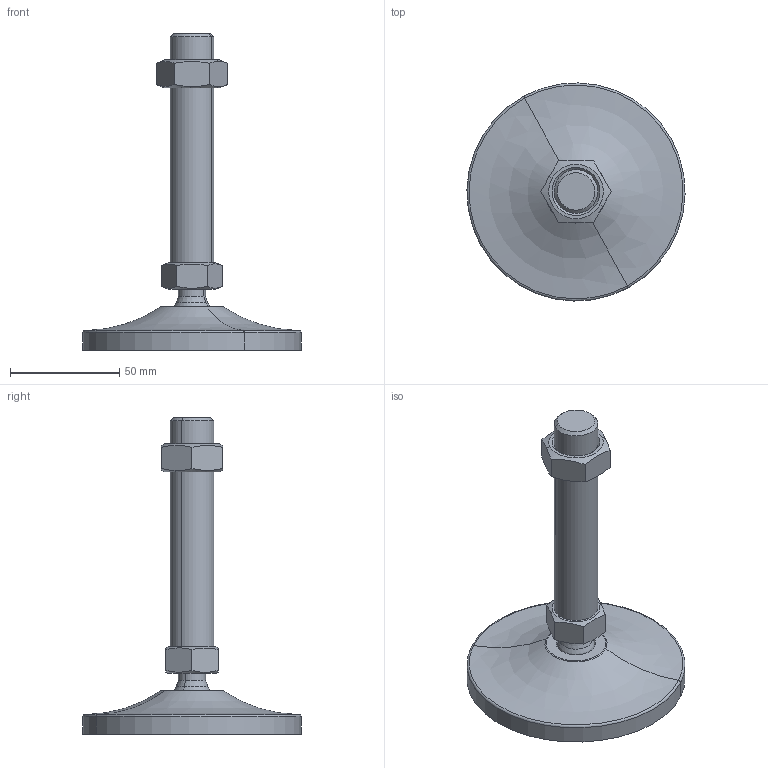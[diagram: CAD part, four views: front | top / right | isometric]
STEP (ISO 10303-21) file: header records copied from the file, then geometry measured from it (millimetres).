
FILE_DESCRIPTION(('CATIA V5 STEP Exchange'),'2;1');
FILE_NAME('C:\Users\ALI OZGUN\Desktop\alhan\saplama2\560102615.stp','2017-09-21T10:35:00+00:00',('none'),('none'),'CATIA Version 5 Release 21 GA (IN-10)','CATIA V5 STEP AP203','none');
FILE_SCHEMA(('CONFIG_CONTROL_DESIGN'));
Length unit declared in the file: millimetre
Products named in the file (1): 560102615
Bounding box: 99.97 x 99.97 x 145 mm (x, y, z)
Volume: 107672.2 mm3; surface area: 32401.5 mm2
Topology: 3 solids, 3 shells, 60 faces, 136 edges, 83 vertices
Faces by surface type: plane 20, cone 16, cylinder 14, torus 4, revolution 4, sphere 2
Entity records: 1878 total; most frequent: CARTESIAN_POINT 636, ORIENTED_EDGE 268, DIRECTION 185, EDGE_CURVE 134, AXIS2_PLACEMENT_3D 99, VERTEX_POINT 83, EDGE_LOOP 67, ADVANCED_FACE 60
